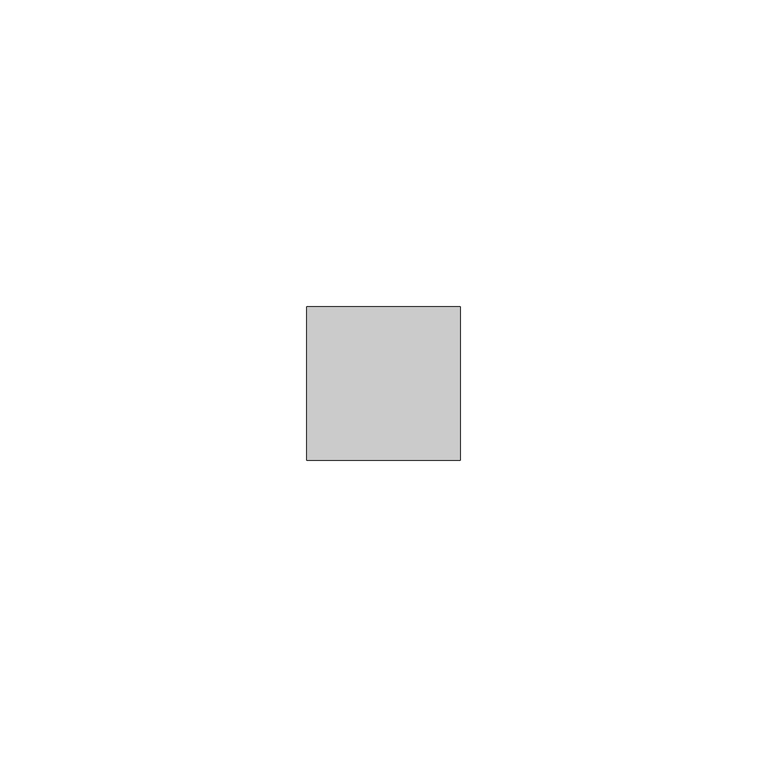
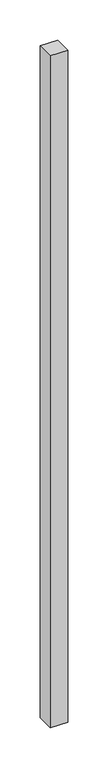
"""IFC4 building model written with IfcOpenShell, lengths in millimetres: member geometry, Obdélníková příčel : VERTI AERO."""

from ifc_helpers import new_model, si_unit, frame, origin, place, context, project, spatial, polyline, outline, extrude, source, transform, mapped, element, save


def member_84587a3a(model_context):
    return source(origin(), model_context, "Body", "SweptSolid", [
        extrude(outline(polyline([(0.0, 12.5), (0.0, -12.5), (-25.0, -12.5), (-25.0, 12.5), (0.0, 12.5)])), frame((0.0, 0.0, -1020.0), z_axis=(0.0, 0.0, 1.0), x_axis=(1.0, 0.0, 0.0)), (0.0, 0.0, 1.0), 1020.0),
    ])


if __name__ == "__main__":
    model = new_model("IFC4")
    model_context = context("Model", 3, world=origin())
    ifc_project = project(units=[si_unit("LENGTHUNIT", "METRE", prefix="MILLI")], contexts=[model_context])
    site = spatial("IfcSite", under=ifc_project)
    building = spatial("IfcBuilding", under=site)
    placement = place(None, origin())
    member_shape = member_84587a3a(model_context)
    element("IfcMember", 1, ObjectType="Obdélníková příčel : VERTI AERO", at=placement, inside=building, context=model_context, shape_type="MappedRepresentation", body=[
        mapped(member_shape, transform((0.0, 0.0, 0.0), x_axis=(1.0, 0.0, 0.0), y_axis=(0.0, 1.0, 0.0), z_axis=(0.0, 0.0, 1.0))),
    ])
    save(model, "model.ifc")
